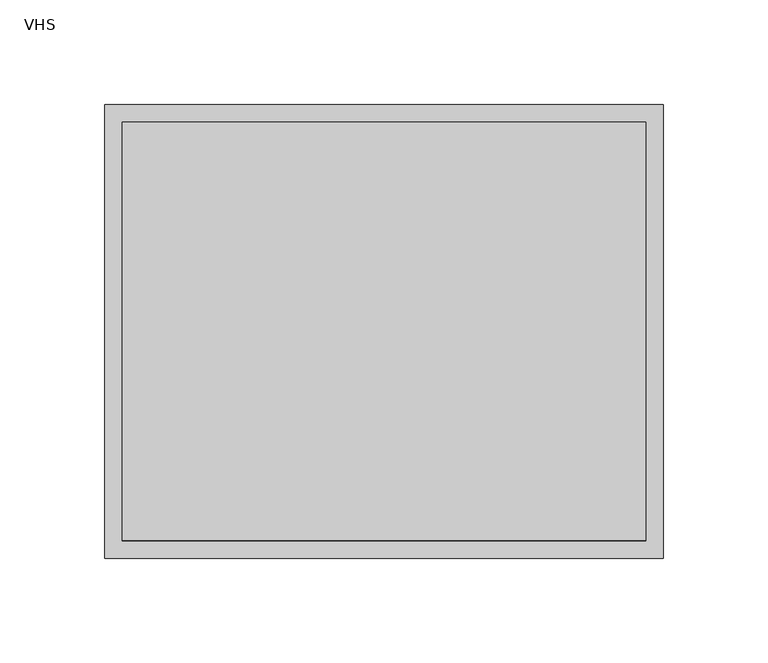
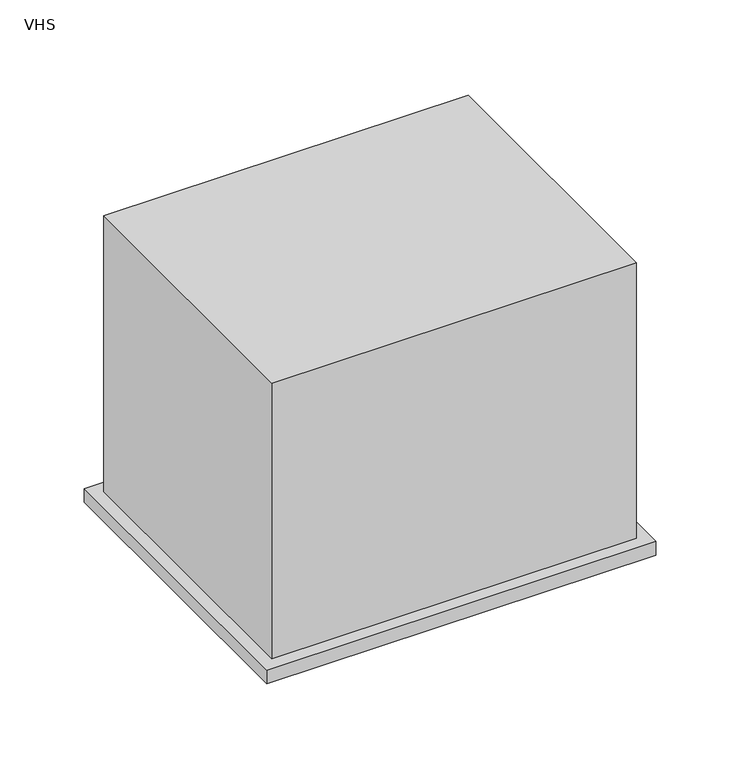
"""IFC4 building model written with IfcOpenShell, lengths in millimetres: air terminal geometry, 031_ユニバーサル形吹出口 : VHS."""

from ifc_helpers import new_model, si_unit, frame, origin, origin_with_axes, place, context, project, spatial, polyline, outline, extrude, source, transform, mapped, element, save


def vhs_94f7c366(model_context):
    return source(origin(), model_context, "Body", "SweptSolid", [
        extrude(outline(polyline([(125.0, 100.0), (125.0, -100.0), (-125.0, -100.0), (-125.0, 100.0), (125.0, 100.0)])), origin_with_axes(), (0.0, 0.0, 1.0), 200.0),
        extrude(outline(polyline([(133.5, -108.5), (-133.5, -108.5), (-133.5, 108.5), (133.5, 108.5), (133.5, -108.5)]), holes=[polyline([(125.0, -100.0), (125.0, 100.0), (-125.0, 100.0), (-125.0, -100.0), (125.0, -100.0)])]), frame((0.0, 0.0, -10.0), z_axis=(0.0, 0.0, 1.0), x_axis=(1.0, 0.0, 0.0)), (0.0, 0.0, 1.0), 10.0),
    ])


if __name__ == "__main__":
    model = new_model("IFC4")
    model_context = context("Model", 3, world=origin())
    ifc_project = project(units=[si_unit("LENGTHUNIT", "METRE", prefix="MILLI")], contexts=[model_context])
    site = spatial("IfcSite", under=ifc_project)
    building = spatial("IfcBuilding", under=site)
    placement = place(None, origin())
    vhs_shape = vhs_94f7c366(model_context)
    element("IfcAirTerminal", 1, ObjectType="031_ユニバーサル形吹出口 : VHS", at=placement, inside=building, context=model_context, shape_type="MappedRepresentation", body=[
        mapped(vhs_shape, transform((0.0, 0.0, 0.0), x_axis=(1.0, 0.0, 0.0), y_axis=(0.0, 1.0, 0.0), z_axis=(0.0, 0.0, 1.0))),
    ])
    save(model, "model.ifc")
